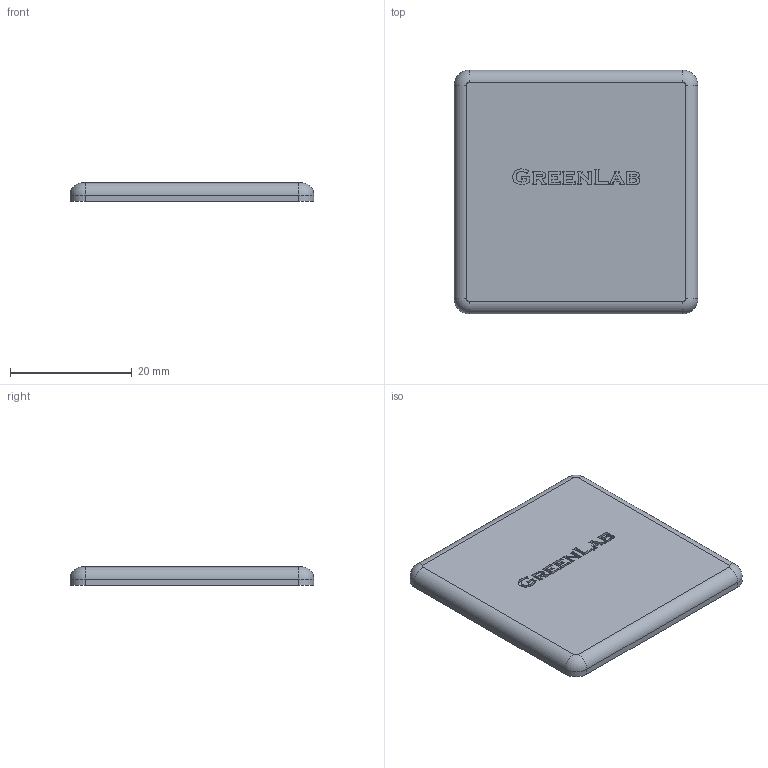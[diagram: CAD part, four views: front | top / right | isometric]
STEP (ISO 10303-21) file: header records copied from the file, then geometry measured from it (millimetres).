
FILE_DESCRIPTION (( 'STEP AP214' ), '1' );
FILE_NAME ('1.1063 Päätysuoja 40X40 musta.STEP', '2023-12-04T15:13:21', ( '' ), ( '' ), 'SwSTEP 2.0', 'SolidWorks 2019', '' );
FILE_SCHEMA (( 'AUTOMOTIVE_DESIGN' ));
Length unit declared in the file: millimetre
Products named in the file (1): 1.1063 Päätysuoja 40X40 musta
Bounding box: 40 x 40 x 3 mm (x, y, z)
Volume: 4641.9 mm3; surface area: 3574.7 mm2
Topology: 1 solids, 1 shells, 240 faces, 670 edges, 444 vertices
Faces by surface type: plane 143, bspline 85, cylinder 8, torus 4
Entity records: 10306 total; most frequent: CARTESIAN_POINT 4672, ORIENTED_EDGE 1340, DIRECTION 832, EDGE_CURVE 670, VECTOR 480, LINE 480, VERTEX_POINT 444, EDGE_LOOP 252
